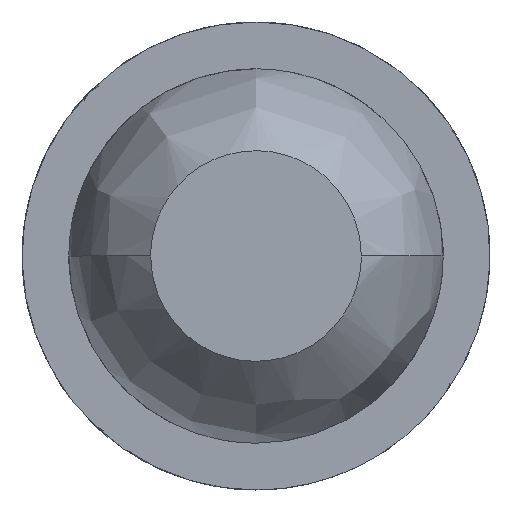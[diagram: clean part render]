
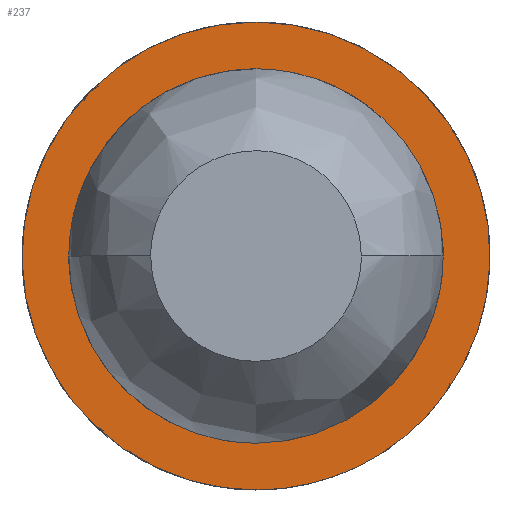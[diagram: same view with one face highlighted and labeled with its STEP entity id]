
A CAD part, left-side view. The second image highlights one B-rep face of the part: STEP entity #237.
In plain terms, the highlighted free-form (B-spline) face has degree [1, 1] with [2, 2] control points.
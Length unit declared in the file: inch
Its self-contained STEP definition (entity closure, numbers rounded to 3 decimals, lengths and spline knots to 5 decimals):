
#19 = CARTESIAN_POINT ( 'NONE',  ( 1.22, 0., -0.025 ) ) ;
#25 = CARTESIAN_POINT ( 'NONE',  ( 1.22, 0., -0.05 ) ) ;
#65 = CARTESIAN_POINT ( 'NONE',  ( 1.22, 0., 0.025 ) ) ;
#85 = CARTESIAN_POINT ( 'NONE',  ( 1.22, 0.02607, -0.04464 ) ) ;
#209 = CARTESIAN_POINT ( 'NONE',  ( 1.22, -0.05, 0.025 ) ) ;
#215 = CARTESIAN_POINT ( 'NONE',  ( 1.22, 0., -0.05 ) ) ;
#217 = B_SPLINE_SURFACE_WITH_KNOTS ( 'NONE', 1, 1, ( 
 ( #379, #1179 ),
 ( #750, #373 ) ),
 .UNSPECIFIED., .F., .F., .F.,
 ( 2, 2 ),
 ( 2, 2 ),
 ( 0., 1. ),
 ( 0., 1. ),
 .UNSPECIFIED. ) ;
#237 = ADVANCED_FACE ( 'NONE', ( #918, #838 ), #217, .F. ) ;
#251 = EDGE_LOOP ( 'NONE', ( #524, #354 ) ) ;
#283 = CARTESIAN_POINT ( 'NONE',  ( 1.22, 0.02607, 0.04464 ) ) ;
#305 = CARTESIAN_POINT ( 'NONE',  ( 1.22, 0., -0.025 ) ) ;
#313 = CARTESIAN_POINT ( 'NONE',  ( 1.22, -0.1, 0.05 ) ) ;
#321 = EDGE_CURVE ( 'NONE', #1149, #876, #1126, .T. ) ;
#345 = CARTESIAN_POINT ( 'NONE',  ( 1.22, 0.01299, 0.02237 ) ) ;
#354 = ORIENTED_EDGE ( 'NONE', *, *, #885, .F. ) ;
#357 = CARTESIAN_POINT ( 'NONE',  ( 1.22, 0.00663, -0.025 ) ) ;
#367 = CARTESIAN_POINT ( 'NONE',  ( 1.22, 0.04464, -0.02607 ) ) ;
#373 = CARTESIAN_POINT ( 'NONE',  ( 1.22, 0.0506, -0.0506 ) ) ;
#379 = CARTESIAN_POINT ( 'NONE',  ( 1.22, -0.0506, 0.0506 ) ) ;
#408 = CARTESIAN_POINT ( 'NONE',  ( 1.22, 0., 0.025 ) ) ;
#427 = VERTEX_POINT ( 'NONE', #408 ) ;
#461 = CARTESIAN_POINT ( 'NONE',  ( 1.22, 0.01313, 0.05 ) ) ;
#489 = CARTESIAN_POINT ( 'NONE',  ( 1.22, 0., 0.05 ) ) ;
#507 = CARTESIAN_POINT ( 'NONE',  ( 1.22, -0.1, -0.05 ) ) ;
#524 = ORIENTED_EDGE ( 'NONE', *, *, #704, .T. ) ;
#542 = CARTESIAN_POINT ( 'NONE',  ( 1.22, 0., -0.025 ) ) ;
#595 = CARTESIAN_POINT ( 'NONE',  ( 1.22, 0., 0.025 ) ) ;
#651 = ORIENTED_EDGE ( 'NONE', *, *, #321, .T. ) ;
#652 = CARTESIAN_POINT ( 'NONE',  ( 1.22, 0.05, -0.01313 ) ) ;
#664 = CARTESIAN_POINT ( 'NONE',  ( 1.22, 0.05, 0.01313 ) ) ;
#693 = EDGE_LOOP ( 'NONE', ( #730, #651 ) ) ;
#701 = CARTESIAN_POINT ( 'NONE',  ( 1.22, 0.025, 0.00663 ) ) ;
#704 = EDGE_CURVE ( 'NONE', #829, #427, #1036, .T. ) ;
#730 = ORIENTED_EDGE ( 'NONE', *, *, #848, .F. ) ;
#731 = CARTESIAN_POINT ( 'NONE',  ( 1.22, 0.01313, -0.05 ) ) ;
#750 = CARTESIAN_POINT ( 'NONE',  ( 1.22, -0.0506, -0.0506 ) ) ;
#758 =( BOUNDED_CURVE ( )  B_SPLINE_CURVE ( 3, ( #489, #313, #507, #25 ),
 .UNSPECIFIED., .F., .T. ) 
 B_SPLINE_CURVE_WITH_KNOTS ( ( 4, 4 ),
 ( -3.14159, 0. ),
 .UNSPECIFIED. ) 
 CURVE ( )  GEOMETRIC_REPRESENTATION_ITEM ( )  RATIONAL_B_SPLINE_CURVE ( ( 1., 0.333, 0.333, 1. ) ) 
 REPRESENTATION_ITEM ( '' )  );
#801 = CARTESIAN_POINT ( 'NONE',  ( 1.22, 0.025, -0.00663 ) ) ;
#825 = CARTESIAN_POINT ( 'NONE',  ( 1.22, 0.04464, 0.02607 ) ) ;
#829 = VERTEX_POINT ( 'NONE', #19 ) ;
#838 = FACE_OUTER_BOUND ( 'NONE', #693, .T. ) ;
#848 = EDGE_CURVE ( 'NONE', #1149, #876, #758, .T. ) ;
#870 =( BOUNDED_CURVE ( )  B_SPLINE_CURVE ( 3, ( #305, #1035, #209, #595 ),
 .UNSPECIFIED., .F., .T. ) 
 B_SPLINE_CURVE_WITH_KNOTS ( ( 4, 4 ),
 ( -3.14159, 0. ),
 .UNSPECIFIED. ) 
 CURVE ( )  GEOMETRIC_REPRESENTATION_ITEM ( )  RATIONAL_B_SPLINE_CURVE ( ( 1., 0.333, 0.333, 1. ) ) 
 REPRESENTATION_ITEM ( '' )  );
#876 = VERTEX_POINT ( 'NONE', #215 ) ;
#885 = EDGE_CURVE ( 'NONE', #829, #427, #870, .T. ) ;
#893 = CARTESIAN_POINT ( 'NONE',  ( 1.22, 0.02237, -0.01299 ) ) ;
#918 = FACE_BOUND ( 'NONE', #251, .T. ) ;
#977 = CARTESIAN_POINT ( 'NONE',  ( 1.22, 0.00663, 0.025 ) ) ;
#1035 = CARTESIAN_POINT ( 'NONE',  ( 1.22, -0.05, -0.025 ) ) ;
#1036 = B_SPLINE_CURVE_WITH_KNOTS ( 'NONE', 3,
 ( #542, #357, #1161, #893, #801, #701, #1080, #345, #977, #65 ),
 .UNSPECIFIED., .F., .F.,
 ( 4, 2, 2, 2, 4 ),
 ( 0., 0.7854, 1.5708, 2.35619, 3.14159 ),
 .UNSPECIFIED. ) ;
#1080 = CARTESIAN_POINT ( 'NONE',  ( 1.22, 0.02237, 0.01299 ) ) ;
#1090 = CARTESIAN_POINT ( 'NONE',  ( 1.22, 0., -0.05 ) ) ;
#1107 = CARTESIAN_POINT ( 'NONE',  ( 1.22, 0., 0.05 ) ) ;
#1126 = B_SPLINE_CURVE_WITH_KNOTS ( 'NONE', 3,
 ( #1191, #461, #283, #825, #664, #652, #367, #85, #731, #1090 ),
 .UNSPECIFIED., .F., .F.,
 ( 4, 2, 2, 2, 4 ),
 ( 0., 0.7854, 1.5708, 2.35619, 3.14159 ),
 .UNSPECIFIED. ) ;
#1149 = VERTEX_POINT ( 'NONE', #1107 ) ;
#1161 = CARTESIAN_POINT ( 'NONE',  ( 1.22, 0.01299, -0.02237 ) ) ;
#1179 = CARTESIAN_POINT ( 'NONE',  ( 1.22, 0.0506, 0.0506 ) ) ;
#1191 = CARTESIAN_POINT ( 'NONE',  ( 1.22, 0., 0.05 ) ) ;
